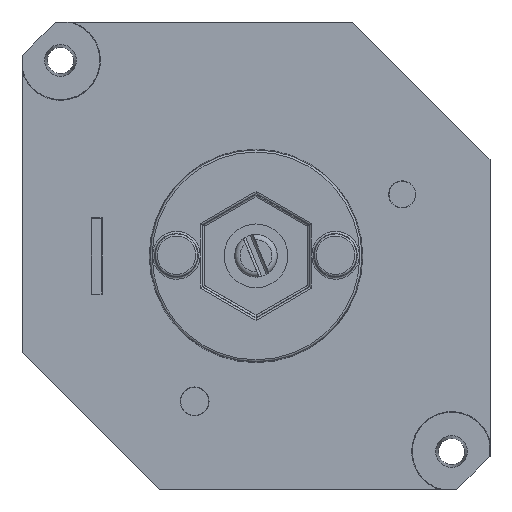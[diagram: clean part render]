
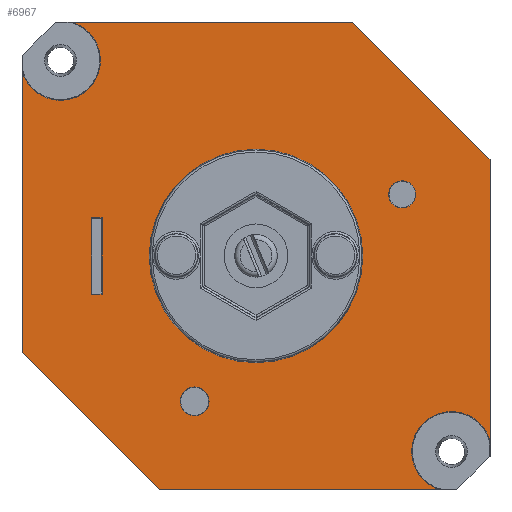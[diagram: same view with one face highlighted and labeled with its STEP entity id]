
A CAD part, top view. The second image highlights one B-rep face of the part: STEP entity #6967.
In plain terms, the highlighted planar face has unit normal (0, 0, 1).
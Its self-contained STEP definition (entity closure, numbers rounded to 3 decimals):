
#560=LINE('',#10033,#1068);
#561=LINE('',#10037,#1069);
#563=LINE('',#10041,#1071);
#565=LINE('',#10045,#1073);
#566=LINE('',#10049,#1074);
#568=LINE('',#10053,#1076);
#570=LINE('',#10058,#1078);
#574=LINE('',#10067,#1082);
#576=LINE('',#10070,#1084);
#577=LINE('',#10072,#1085);
#1068=VECTOR('',#8497,1000.);
#1069=VECTOR('',#8504,1000.);
#1071=VECTOR('',#8508,1000.);
#1073=VECTOR('',#8512,1000.);
#1074=VECTOR('',#8519,1000.);
#1076=VECTOR('',#8523,1000.);
#1078=VECTOR('',#8527,1000.);
#1082=VECTOR('',#8533,1000.);
#1084=VECTOR('',#8537,1000.);
#1085=VECTOR('',#8538,1000.);
#2297=ORIENTED_EDGE('',*,*,#3115,.F.);
#2298=ORIENTED_EDGE('',*,*,#3113,.F.);
#2299=ORIENTED_EDGE('',*,*,#3112,.T.);
#2300=ORIENTED_EDGE('',*,*,#3111,.F.);
#2301=ORIENTED_EDGE('',*,*,#3109,.F.);
#2302=ORIENTED_EDGE('',*,*,#3107,.F.);
#2303=ORIENTED_EDGE('',*,*,#3106,.T.);
#2304=ORIENTED_EDGE('',*,*,#3105,.F.);
#2305=ORIENTED_EDGE('',*,*,#3123,.T.);
#2306=ORIENTED_EDGE('',*,*,#3124,.T.);
#2307=ORIENTED_EDGE('',*,*,#3117,.T.);
#2308=ORIENTED_EDGE('',*,*,#3121,.T.);
#2309=ORIENTED_EDGE('',*,*,#3125,.F.);
#2310=ORIENTED_EDGE('',*,*,#3103,.F.);
#2311=ORIENTED_EDGE('',*,*,#3126,.F.);
#3103=EDGE_CURVE('',#3606,#3606,#3772,.T.);
#3105=EDGE_CURVE('',#3607,#3566,#560,.T.);
#3106=EDGE_CURVE('',#3571,#3566,#3773,.T.);
#3107=EDGE_CURVE('',#3571,#3608,#561,.T.);
#3109=EDGE_CURVE('',#3608,#3609,#563,.T.);
#3111=EDGE_CURVE('',#3609,#3572,#565,.T.);
#3112=EDGE_CURVE('',#3577,#3572,#3774,.T.);
#3113=EDGE_CURVE('',#3577,#3610,#566,.T.);
#3115=EDGE_CURVE('',#3610,#3607,#568,.T.);
#3117=EDGE_CURVE('',#3613,#3612,#570,.T.);
#3121=EDGE_CURVE('',#3612,#3616,#574,.T.);
#3123=EDGE_CURVE('',#3616,#3617,#576,.T.);
#3124=EDGE_CURVE('',#3617,#3613,#577,.T.);
#3125=EDGE_CURVE('',#3618,#3618,#3775,.T.);
#3126=EDGE_CURVE('',#3619,#3619,#3776,.T.);
#3566=VERTEX_POINT('',#9885);
#3571=VERTEX_POINT('',#9907);
#3572=VERTEX_POINT('',#9911);
#3577=VERTEX_POINT('',#9933);
#3606=VERTEX_POINT('',#10029);
#3607=VERTEX_POINT('',#10032);
#3608=VERTEX_POINT('',#10038);
#3609=VERTEX_POINT('',#10042);
#3610=VERTEX_POINT('',#10050);
#3612=VERTEX_POINT('',#10057);
#3613=VERTEX_POINT('',#10059);
#3616=VERTEX_POINT('',#10066);
#3617=VERTEX_POINT('',#10071);
#3618=VERTEX_POINT('',#10074);
#3619=VERTEX_POINT('',#10076);
#3772=CIRCLE('',#7340,6.);
#3773=CIRCLE('',#7343,3.75);
#3774=CIRCLE('',#7348,3.75);
#3775=CIRCLE('',#7354,1.354);
#3776=CIRCLE('',#7355,1.278);
#4064=EDGE_LOOP('',(#2297,#2298,#2299,#2300,#2301,#2302,#2303,#2304));
#4065=EDGE_LOOP('',(#2305,#2306,#2307,#2308));
#4066=EDGE_LOOP('',(#2309));
#4067=EDGE_LOOP('',(#2310));
#4068=EDGE_LOOP('',(#2311));
#4416=FACE_BOUND('',#4064,.T.);
#4417=FACE_BOUND('',#4065,.T.);
#4418=FACE_BOUND('',#4066,.T.);
#4419=FACE_BOUND('',#4067,.T.);
#4420=FACE_BOUND('',#4068,.T.);
#4689=PLANE('',#7353);
#6967=ADVANCED_FACE('',(#4416,#4417,#4418,#4419,#4420),#4689,.T.);
#7340=AXIS2_PLACEMENT_3D('',#10028,#8492,#8493);
#7343=AXIS2_PLACEMENT_3D('',#10035,#8500,#8501);
#7348=AXIS2_PLACEMENT_3D('',#10047,#8515,#8516);
#7353=AXIS2_PLACEMENT_3D('',#10069,#8535,#8536);
#7354=AXIS2_PLACEMENT_3D('',#10073,#8539,#8540);
#7355=AXIS2_PLACEMENT_3D('',#10075,#8541,#8542);
#8492=DIRECTION('',(0.,0.,1.));
#8493=DIRECTION('',(1.,0.,0.));
#8497=DIRECTION('',(0.,-1.,0.));
#8500=DIRECTION('',(0.,0.,-1.));
#8501=DIRECTION('',(0.,-1.,0.));
#8504=DIRECTION('',(-1.,0.,0.));
#8508=DIRECTION('',(-0.707,0.707,0.));
#8512=DIRECTION('',(0.,1.,0.));
#8515=DIRECTION('',(0.,0.,-1.));
#8516=DIRECTION('',(0.,-1.,0.));
#8519=DIRECTION('',(1.,0.,0.));
#8523=DIRECTION('',(0.707,-0.707,0.));
#8527=DIRECTION('',(-1.,0.,0.));
#8533=DIRECTION('',(0.,1.,0.));
#8535=DIRECTION('',(0.,0.,1.));
#8536=DIRECTION('',(1.,0.,0.));
#8537=DIRECTION('',(1.,0.,0.));
#8538=DIRECTION('',(0.,-1.,0.));
#8539=DIRECTION('',(0.,0.,1.));
#8540=DIRECTION('',(1.,0.,0.));
#8541=DIRECTION('',(0.,0.,1.));
#8542=DIRECTION('',(1.,0.,0.));
#9885=CARTESIAN_POINT('',(22.,-17.369,-5.587));
#9907=CARTESIAN_POINT('',(17.408,-22.,-5.587));
#9911=CARTESIAN_POINT('',(-22.,17.415,-5.587));
#9933=CARTESIAN_POINT('',(-17.362,22.,-5.587));
#10028=CARTESIAN_POINT('',(0.,0.,-5.587));
#10029=CARTESIAN_POINT('',(6.,0.,-5.587));
#10032=CARTESIAN_POINT('',(22.,9.113,-5.587));
#10033=CARTESIAN_POINT('',(22.,0.,-5.587));
#10035=CARTESIAN_POINT('',(18.389,-18.381,-5.587));
#10037=CARTESIAN_POINT('',(0.,-22.,-5.587));
#10038=CARTESIAN_POINT('',(-9.113,-22.,-5.587));
#10041=CARTESIAN_POINT('',(-15.556,-15.556,-5.587));
#10042=CARTESIAN_POINT('',(-22.,-9.113,-5.587));
#10045=CARTESIAN_POINT('',(-22.,0.,-5.587));
#10047=CARTESIAN_POINT('',(-18.379,18.39,-5.587));
#10049=CARTESIAN_POINT('',(0.,22.,-5.587));
#10050=CARTESIAN_POINT('',(9.113,22.,-5.587));
#10053=CARTESIAN_POINT('',(15.556,15.556,-5.587));
#10057=CARTESIAN_POINT('',(-15.469,-3.6,-5.587));
#10058=CARTESIAN_POINT('',(0.,-3.6,-5.587));
#10059=CARTESIAN_POINT('',(-14.469,-3.6,-5.587));
#10066=CARTESIAN_POINT('',(-15.469,3.6,-5.587));
#10067=CARTESIAN_POINT('',(-15.469,0.,-5.587));
#10069=CARTESIAN_POINT('',(0.,0.,-5.587));
#10070=CARTESIAN_POINT('',(0.,3.6,-5.587));
#10071=CARTESIAN_POINT('',(-14.469,3.6,-5.587));
#10072=CARTESIAN_POINT('',(-14.469,0.,-5.587));
#10073=CARTESIAN_POINT('',(-5.773,-13.662,-5.587));
#10074=CARTESIAN_POINT('',(-4.418,-13.662,-5.587));
#10075=CARTESIAN_POINT('',(13.748,5.791,-5.587));
#10076=CARTESIAN_POINT('',(15.026,5.791,-5.587));
